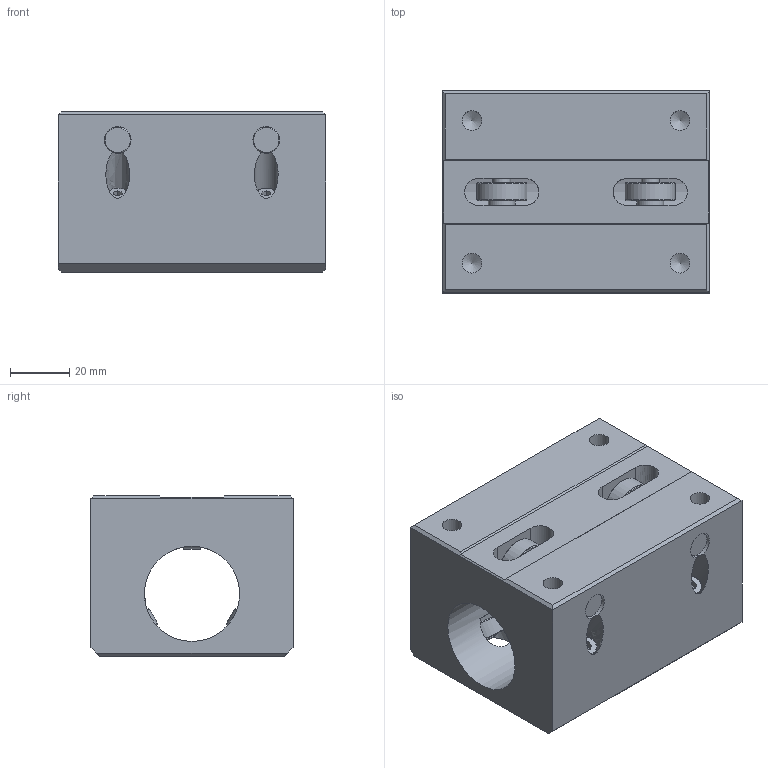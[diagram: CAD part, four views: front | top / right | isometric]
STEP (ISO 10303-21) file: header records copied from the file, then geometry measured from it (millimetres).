
FILE_DESCRIPTION((''),'2;1');
FILE_NAME('D:\製品 (図面)\カタログ用3D\リニアガイド関連\STEP形式\SLHB\SLHB30.stp','2010-06-02T17:06:47',('Tsuchiya'),(''),'Autodesk Inventor 10','Autodesk Inventor 10','');
FILE_SCHEMA(('AUTOMOTIVE_DESIGN { 1 0 10303 214 1 1 1 1 }'));
Length unit declared in the file: millimetre
Products named in the file (1): SLHB30
Bounding box: 90 x 68 x 54 mm (x, y, z)
Volume: 236603 mm3; surface area: 47653.5 mm2
Topology: 1 solids, 1 shells, 175 faces, 409 edges, 264 vertices
Faces by surface type: bspline 72, plane 56, cylinder 24, cone 20, torus 3
Full cylindrical faces by diameter (mm): 6 x3, 6.647 x2, 7 x3, 8 x3, 9 x4, 17 x3, 19 x2, 32 x1
Entity records: 5290 total; most frequent: CARTESIAN_POINT 2025, ORIENTED_EDGE 600, DIRECTION 578, EDGE_CURVE 300, EDGE_LOOP 296, VERTEX_POINT 230, AXIS2_PLACEMENT_3D 220, FACE_OUTER_BOUND 175
